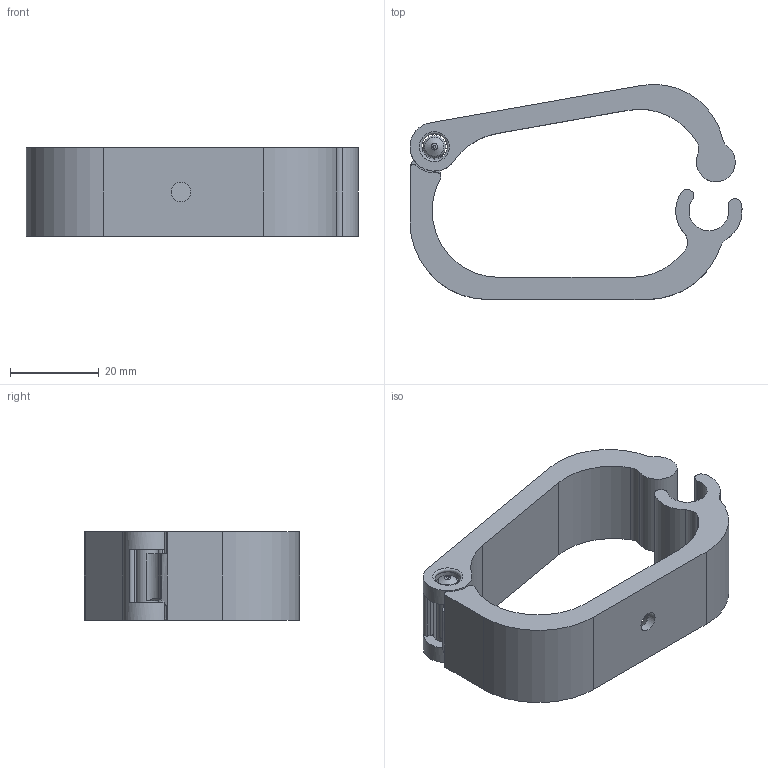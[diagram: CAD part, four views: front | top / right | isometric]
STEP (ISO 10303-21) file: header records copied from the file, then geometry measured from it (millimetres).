
FILE_DESCRIPTION(/* description */ (''),/* implementation_level */ '2;1');
FILE_NAME(/* name */ 'Cableclamp.step',/* time_stamp */ '2025-11-07T18:07:38+01:00',/* author */ (''),/* organization */ (''),/* preprocessor_version */ 'ST-DEVELOPER v20.1',/* originating_system */ 'Autodesk Translation Framework v14.17.0.0',/* authorisation */ '');
FILE_SCHEMA (('AUTOMOTIVE_DESIGN { 1 0 10303 214 3 1 1 }'));
Length unit declared in the file: millimetre
Products named in the file (2): Kabelmanager/clamp; TopPart
Assembly tree (1 placements, depth 2):
  Kabelmanager/clamp
    TopPart
Bounding box: 74.99 x 48.58 x 20 mm (x, y, z)
Volume: 21197.6 mm3; surface area: 10978.3 mm2
Topology: 2 solids, 2 shells, 65 faces, 177 edges, 117 vertices
Faces by surface type: cylinder 29, plane 19, bspline 9, cone 6, torus 2
Full cylindrical faces by diameter (mm): 4.5 x1, 5.1 x1, 6.5 x1
Entity records: 2457 total; most frequent: CARTESIAN_POINT 772, ORIENTED_EDGE 354, DIRECTION 341, EDGE_CURVE 177, AXIS2_PLACEMENT_3D 137, VERTEX_POINT 117, CIRCLE 78, EDGE_LOOP 72
